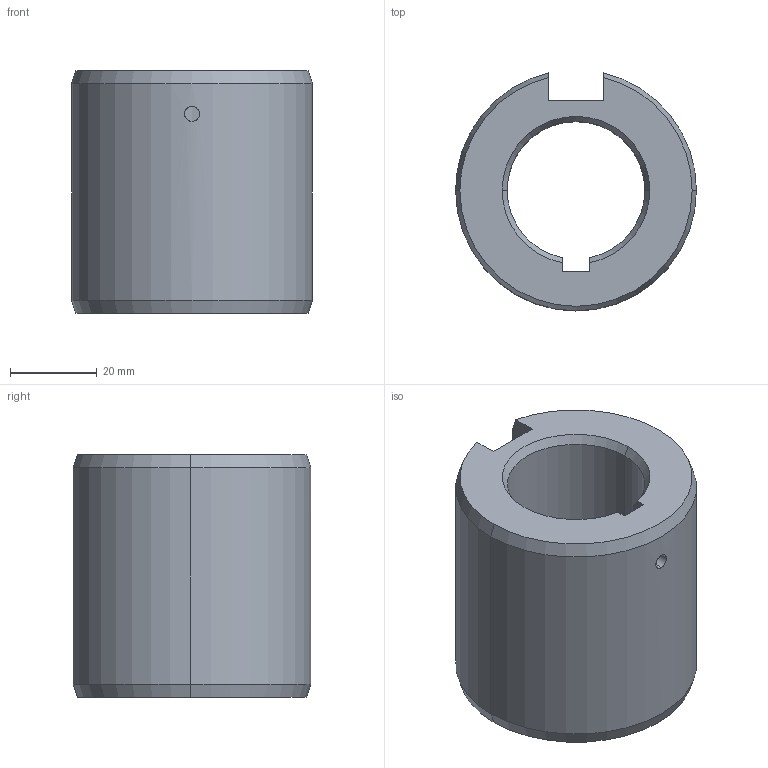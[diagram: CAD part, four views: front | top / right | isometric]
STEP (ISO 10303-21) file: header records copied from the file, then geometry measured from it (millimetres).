
FILE_DESCRIPTION (( 'STEP AP203' ), '1' );
FILE_NAME ('KBSH083P20.STEP', '2023-08-01T05:26:09', ( '' ), ( '' ), 'SwSTEP 2.0', 'SolidWorks 2017', '' );
FILE_SCHEMA (( 'CONFIG_CONTROL_DESIGN' ));
Length unit declared in the file: millimetre
Products named in the file (1): KBSH083P20
Bounding box: 55.56 x 54.83 x 56 mm (x, y, z)
Volume: 84700 mm3; surface area: 19118.5 mm2
Topology: 1 solids, 1 shells, 28 faces, 70 edges, 44 vertices
Faces by surface type: cone 12, cylinder 8, plane 8
Entity records: 977 total; most frequent: CARTESIAN_POINT 219, DIRECTION 144, ORIENTED_EDGE 140, EDGE_CURVE 70, AXIS2_PLACEMENT_3D 55, VERTEX_POINT 44, LINE 34, VECTOR 34
